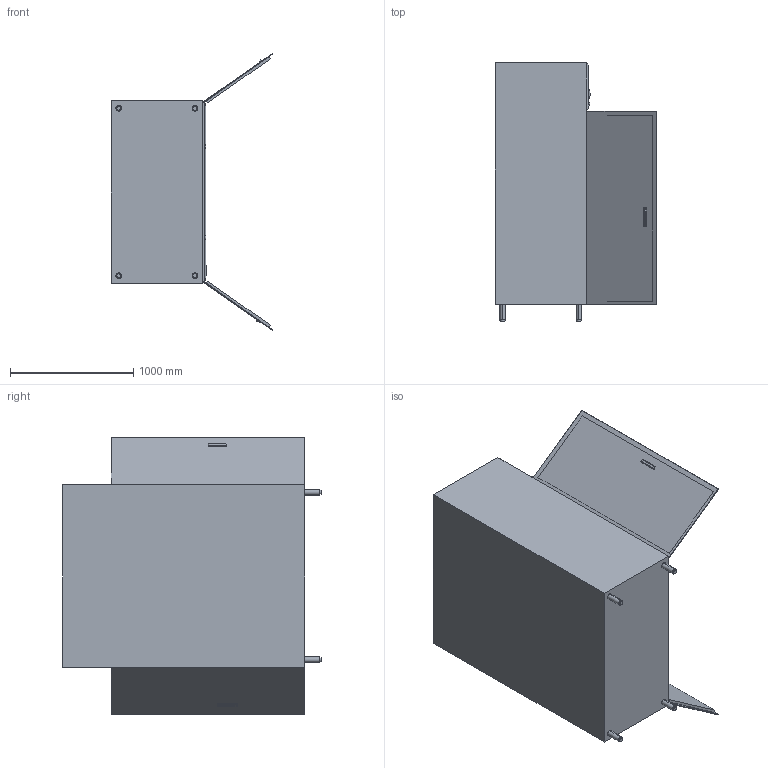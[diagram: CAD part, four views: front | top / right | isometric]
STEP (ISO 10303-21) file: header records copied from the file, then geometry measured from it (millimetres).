
FILE_DESCRIPTION(('CATIA V5 STEP Exchange','CAx-IF Rec.Pracs.--- Model Styling and Organization---1.4--- 2014-01-23','CAx-IF Rec.Pracs.---3D Tessellated Data Validation Properties---0.5---2014-09-14'),'2;1');
FILE_NAME('C:\가치같이\SmartFactory_HeatDryer\HeatDryer.stp','2024-09-10T06:34:48+00:00',('none'),('none'),'CATIA Version 5-6 Release 2019','3DEXPERIENCE Platform STEP AP242 v1','none');
FILE_SCHEMA(('AP242_MANAGED_MODEL_BASED_3D_ENGINEERING_MIM_LF {1 0 10303 442 1 1 4}'));
Length unit declared in the file: millimetre
Products named in the file (1): HeatDryer
Bounding box: 1312.87 x 2100 x 2250.91 mm (x, y, z)
Volume: 789215459.9 mm3; surface area: 22817200.2 mm2
Topology: 1 solids, 1 shells, 249 faces, 672 edges, 438 vertices
Faces by surface type: plane 211, cylinder 34, torus 4
Entity records: 7312 total; most frequent: CARTESIAN_POINT 1372, ORIENTED_EDGE 1344, DIRECTION 892, EDGE_CURVE 672, VECTOR 596, LINE 596, VERTEX_POINT 438, EDGE_LOOP 304
